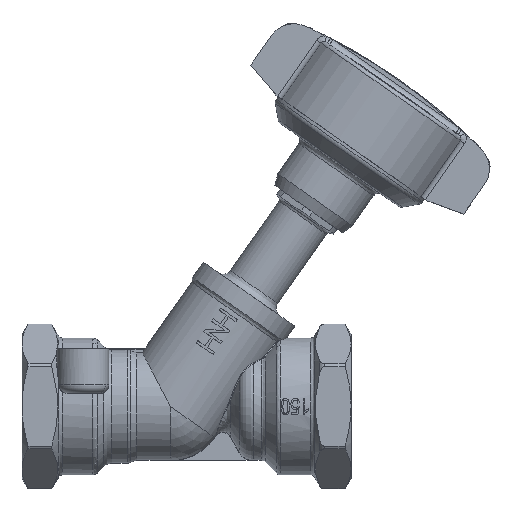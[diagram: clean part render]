
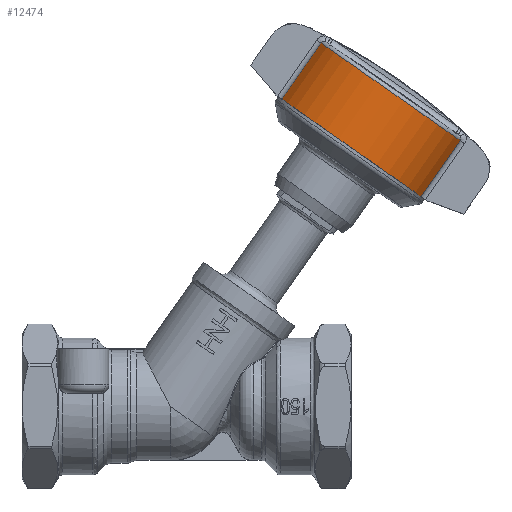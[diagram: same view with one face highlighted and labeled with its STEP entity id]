
A CAD part, top view. The second image highlights one B-rep face of the part: STEP entity #12474.
In plain terms, the highlighted cylindrical face has radius 31.925 mm (diameter 63.85 mm), a partial arc.
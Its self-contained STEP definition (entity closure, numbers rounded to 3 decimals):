
#11333=CARTESIAN_POINT('',(37.834,92.092,12.328));
#11334=VERTEX_POINT('',#11333);
#11342=CARTESIAN_POINT('',(24.24,72.678,12.328));
#11343=VERTEX_POINT('',#11342);
#11344=CARTESIAN_POINT('',(37.834,92.092,12.328));
#11345=DIRECTION('',(-0.574,-0.819,0.));
#11346=VECTOR('',#11345,23.7);
#11347=LINE('',#11344,#11346);
#11348=EDGE_CURVE('',#11334,#11343,#11347,.T.);
#11743=CARTESIAN_POINT('',(-10.412,125.874,12.328));
#11744=VERTEX_POINT('',#11743);
#11774=CARTESIAN_POINT('',(-24.006,106.46,12.328));
#11775=VERTEX_POINT('',#11774);
#11783=CARTESIAN_POINT('',(-24.006,106.46,12.328));
#11784=DIRECTION('',(0.574,0.819,0.0));
#11785=VECTOR('',#11784,23.7);
#11786=LINE('',#11783,#11785);
#11787=EDGE_CURVE('',#11775,#11744,#11786,.T.);
#12447=CARTESIAN_POINT('',(13.711,108.983,0.0));
#12448=DIRECTION('',(-0.574,-0.819,0.0));
#12449=DIRECTION('',(0.819,-0.574,0.0));
#12450=AXIS2_PLACEMENT_3D('',#12447,#12448,#12449);
#12451=CIRCLE('',#12450,31.925);
#12452=EDGE_CURVE('',#11334,#11744,#12451,.T.);
#12457=CARTESIAN_POINT('',(6.914,99.276,0.0));
#12458=DIRECTION('',(-0.574,-0.819,0.0));
#12459=DIRECTION('',(0.819,-0.574,0.0));
#12460=AXIS2_PLACEMENT_3D('',#12457,#12458,#12459);
#12461=CYLINDRICAL_SURFACE('',#12460,31.925);
#12462=ORIENTED_EDGE('',*,*,#11348,.F.);
#12463=ORIENTED_EDGE('',*,*,#12452,.T.);
#12464=ORIENTED_EDGE('',*,*,#11787,.F.);
#12465=CARTESIAN_POINT('',(0.117,89.569,0.0));
#12466=DIRECTION('',(-0.574,-0.819,0.0));
#12467=DIRECTION('',(0.819,-0.574,0.0));
#12468=AXIS2_PLACEMENT_3D('',#12465,#12466,#12467);
#12469=CIRCLE('',#12468,31.925);
#12470=EDGE_CURVE('',#11343,#11775,#12469,.T.);
#12471=ORIENTED_EDGE('',*,*,#12470,.F.);
#12472=EDGE_LOOP('',(#12462,#12463,#12464,#12471));
#12473=FACE_OUTER_BOUND('',#12472,.T.);
#12474=ADVANCED_FACE('',(#12473),#12461,.T.);
